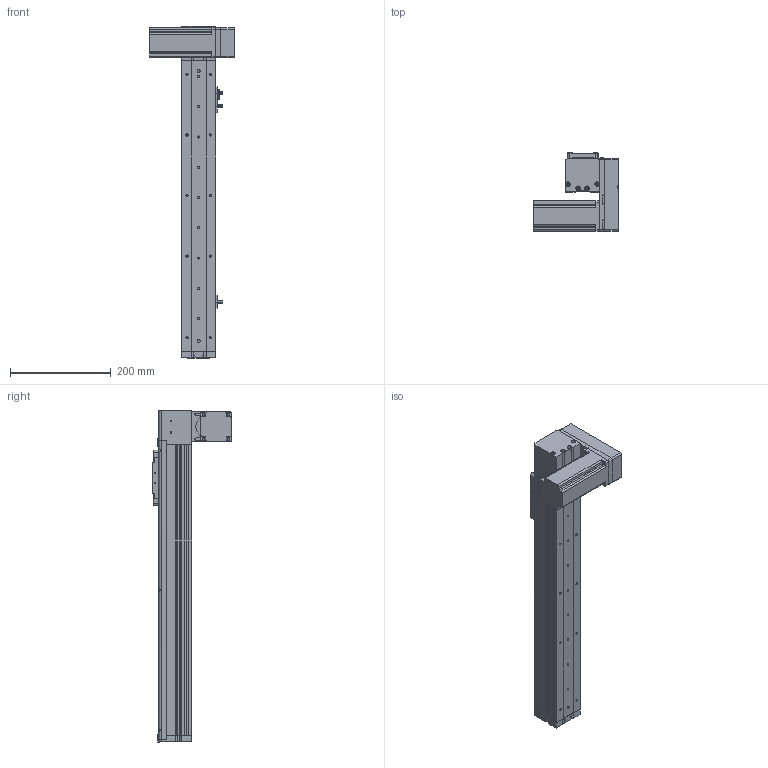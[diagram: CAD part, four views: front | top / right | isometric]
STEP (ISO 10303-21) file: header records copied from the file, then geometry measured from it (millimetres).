
FILE_DESCRIPTION (( 'STEP AP214' ), '1' );
FILE_NAME ('KSD68BS-S400-MLD-CR.STEP', '2019-08-27T03:29:59', ( '微软用户' ), ( '微软中国' ), 'SwSTEP 2.0', 'SolidWorks 2014', '' );
FILE_SCHEMA (( 'AUTOMOTIVE_DESIGN' ));
Length unit declared in the file: millimetre
Products named in the file (15): 68遵裔啣揤啣1; M5x15囀鞠褒_PreviewCfg; 68宽单导轨全封闭丝杆传动安装板1防护罩; KSD68BS 400行程侧板全封闭; 68宽单导轨全封闭同步带端板; 68单导轨全封闭同步带电机座左; 68单导轨全封闭同步带安装板; 悵誘欶奻狟殏; 68宽马达安装板连板上折同步带; 感应片68宽全封闭; U倰嫖萇EEㄜSX672; 台达ECMA－C20604AS伺服电机（400W); KSD68BS 400行程底板全封闭; KSD68BS-S400-MLD-CR; KSD68BS 400行程盖板全封闭
Assembly tree (18 placements, depth 2):
  KSD68BS-S400-MLD-CR
    KSD68BS 400行程底板全封闭
    台达ECMA－C20604AS伺服电机（400W)
    U倰嫖萇EEㄜSX672  x3
    感应片68宽全封闭
    68宽马达安装板连板上折同步带
    悵誘欶奻狟殏
    68单导轨全封闭同步带安装板
    68单导轨全封闭同步带电机座左
    68宽单导轨全封闭同步带端板
    KSD68BS 400行程侧板全封闭  x2
    68宽单导轨全封闭丝杆传动安装板1防护罩
    68遵裔啣揤啣1  x2
    KSD68BS 400行程盖板全封闭
    M5x15囀鞠褒_PreviewCfg
Bounding box: 167.2 x 155.5 x 658.1 mm (x, y, z)
Volume: 1729283.1 mm3; surface area: 591141.3 mm2
Topology: 19 solids, 43 shells, 1592 faces, 4303 edges, 2759 vertices
Faces by surface type: plane 684, cylinder 672, cone 232, torus 4
Entity records: 48375 total; most frequent: CARTESIAN_POINT 8088, DIRECTION 7578, ORIENTED_EDGE 7046, EDGE_CURVE 3523, AXIS2_PLACEMENT_3D 2773, VERTEX_POINT 2297, VECTOR 2032, LINE 2032
